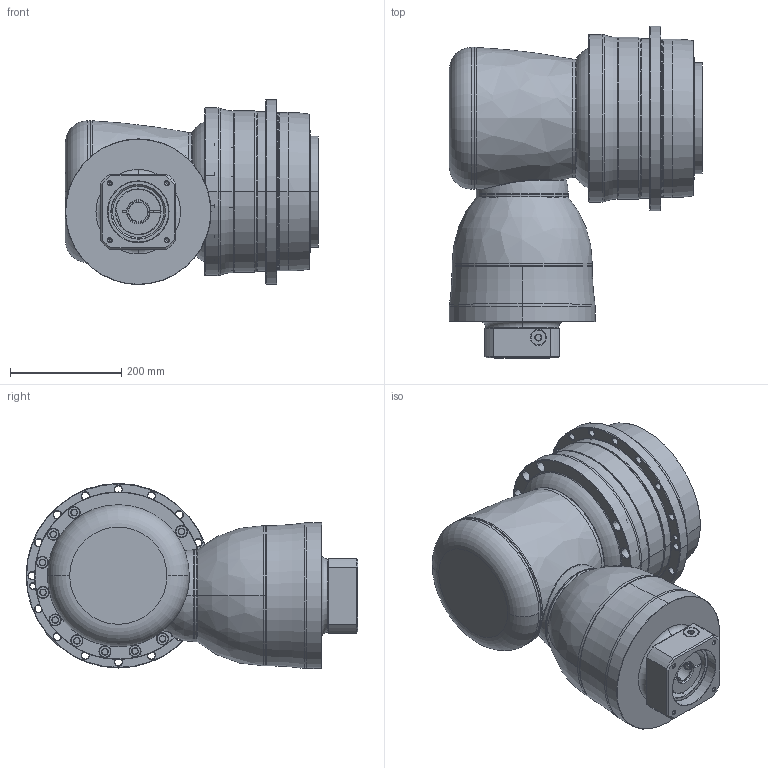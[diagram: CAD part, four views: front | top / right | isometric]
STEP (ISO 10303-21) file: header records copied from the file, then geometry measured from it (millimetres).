
FILE_DESCRIPTION((''),'2;1');
FILE_NAME('AHKB285_3ST_35-P0409800101_ASM','2016-12-02T',('d01943'),(''),'PRO/ENGINEER BY PARAMETRIC TECHNOLOGY CORPORATION, 2008410','PRO/ENGINEER BY PARAMETRIC TECHNOLOGY CORPORATION, 2008410','');
FILE_SCHEMA(('CONFIG_CONTROL_DESIGN'));
Length unit declared in the file: millimetre
Products named in the file (12): P1008700002; P1802800001; P0278800003; P0359800003; P1315700001; P1007700001; P1317700101; P0409800101; P0503800012; P0912601001; 21711422019; AHKB285_3ST_35-P0409800101_ASM
Assembly tree (11 placements, depth 2):
  AHKB285_3ST_35-P0409800101_ASM
    P1008700002
    P1802800001
    P0278800003
    P0359800003
    P1315700001
    P1007700001
    P1317700101
    P0409800101
    P0503800012
    P0912601001
    21711422019
Bounding box: 455.5 x 597 x 333 mm (x, y, z)
Volume: 26446628.7 mm3; surface area: 1830003 mm2
Topology: 12 solids, 12 shells, 1025 faces, 2326 edges, 1341 vertices
Faces by surface type: cylinder 369, cone 362, plane 138, torus 124, bspline 30, sphere 2
Entity records: 36029 total; most frequent: CARTESIAN_POINT 12461, DIRECTION 5426, ORIENTED_EDGE 4488, AXIS2_PLACEMENT_3D 2303, EDGE_CURVE 2244, VERTEX_POINT 1341, CIRCLE 1285, EDGE_LOOP 1219
